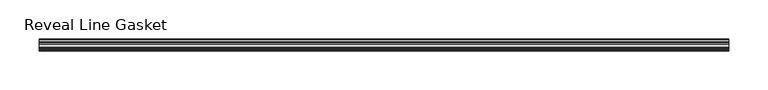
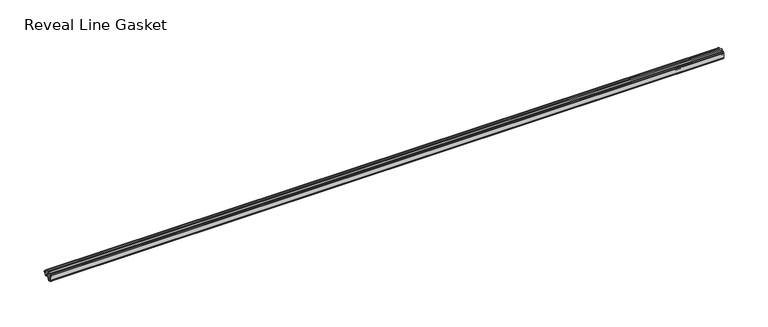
"""IFC4 building model written with IfcOpenShell, lengths in millimetres: proxy geometry, Accessories-Teknion-FHGR-AI_Healthcare-Reveal_Line_Gasket(Horizontal)-R2022 : Reveal Line Gasket."""

from ifc_helpers import new_model, si_unit, point, frame, frame_2d, origin, place, context, project, spatial, polyline, circle_curve, trimmed, segment, composite_curve, outline, extrude, source, transform, mapped, element, save


def reveal_line_gasket_c02b8135(model_context):
    return source(origin(), model_context, "Body", "SweptSolid", [
        extrude(outline(composite_curve([segment(polyline([(-7.6326998, 1603.2), (-7.4091917, 1604.1554927), (-6.8813059, 1605.0884684)]), True, "CONTINUOUS"), segment(trimmed(circle_curve(frame_2d((-6.5243141, 1604.8864793)), 0.4101739), [point((-6.8813059, 1605.0884684))], [point((-6.1246704, 1604.7941347))], False, "CARTESIAN"), True, "CONTINUOUS"), segment(polyline([(-6.1246704, 1604.7941347), (-6.3626997, 1603.0979086), (-6.3626997, 1601.0654527)]), True, "CONTINUOUS"), segment(trimmed(circle_curve(frame_2d((-5.6959605, 1601.4819258)), 0.786124), [point((-6.3626997, 1601.0654527))], [point((-5.0926996, 1600.977875))], True, "CARTESIAN"), True, "CONTINUOUS"), segment(polyline([(-5.0926996, 1600.977875), (-0.7492996, 1600.977875), (-3.7293824, 1606.1395295)]), True, "CONTINUOUS"), segment(trimmed(circle_curve(frame_2d((-3.3132479, 1606.2049761)), 0.4212495), [point((-3.7293824, 1606.1395295))], [point((-3.0485022, 1606.5326358))], False, "CARTESIAN"), True, "CONTINUOUS"), segment(polyline([(-3.0485022, 1606.5326358), (0.5742594, 1600.977875), (4.8262978, 1600.977875), (3.1660374, 1603.8535297)]), True, "CONTINUOUS"), segment(trimmed(circle_curve(frame_2d((3.5978728, 1603.9118855)), 0.4357605), [point((3.1660374, 1603.8535297))], [point((3.864328, 1604.2566881))], False, "CARTESIAN"), True, "CONTINUOUS"), segment(polyline([(3.864328, 1604.2566881), (6.1944059, 1600.977875), (7.6326998, 1600.977875), (7.6326998, 1599.422125), (6.1944059, 1599.422125), (3.864328, 1596.1433119)]), True, "CONTINUOUS"), segment(trimmed(circle_curve(frame_2d((3.5978728, 1596.4881145)), 0.4357605), [point((3.864328, 1596.1433119))], [point((3.1660374, 1596.5464703))], False, "CARTESIAN"), True, "CONTINUOUS"), segment(polyline([(3.1660374, 1596.5464703), (4.8262978, 1599.422125), (0.5742594, 1599.422125), (-3.0485022, 1593.8673642)]), True, "CONTINUOUS"), segment(trimmed(circle_curve(frame_2d((-3.3132479, 1594.1950239)), 0.4212495), [point((-3.0485022, 1593.8673642))], [point((-3.7293824, 1594.2604705))], False, "CARTESIAN"), True, "CONTINUOUS"), segment(polyline([(-3.7293824, 1594.2604705), (-0.7492996, 1599.422125), (-5.0926996, 1599.422125)]), True, "CONTINUOUS"), segment(trimmed(circle_curve(frame_2d((-5.6959605, 1598.9180742)), 0.786124), [point((-5.0926996, 1599.422125))], [point((-6.3626997, 1599.3345473))], True, "CARTESIAN"), True, "CONTINUOUS"), segment(polyline([(-6.3626997, 1599.3345473), (-6.3626997, 1597.3020914), (-6.1246704, 1595.6058653)]), True, "CONTINUOUS"), segment(trimmed(circle_curve(frame_2d((-6.5243141, 1595.5135207)), 0.4101739), [point((-6.1246704, 1595.6058653))], [point((-6.8813059, 1595.3115316))], False, "CARTESIAN"), True, "CONTINUOUS"), segment(polyline([(-6.8813059, 1595.3115316), (-7.4091917, 1596.2445073), (-7.6326998, 1597.2), (-7.6326998, 1603.2)]), True, "CONTINUOUS")], self_intersect=False)), frame((-439.5049898, 0.0, 0.0), z_axis=(1.0, 0.0, 0.0), x_axis=(0.0, 1.0, 0.0)), (0.0, 0.0, 1.0), 879.0099795),
    ])


if __name__ == "__main__":
    model = new_model("IFC4")
    model_context = context("Model", 3, world=origin())
    ifc_project = project(units=[si_unit("LENGTHUNIT", "METRE", prefix="MILLI")], contexts=[model_context])
    site = spatial("IfcSite", under=ifc_project)
    building = spatial("IfcBuilding", under=site)
    placement = place(None, origin())
    reveal_line_gasket_shape = reveal_line_gasket_c02b8135(model_context)
    element("IfcBuildingElementProxy", 1, Name="Accessories-Teknion-FHGR-AI_Healthcare-Reveal_Line_Gasket(Horizontal)-R2022 : Reveal Line Gasket", ObjectType="Accessories-Teknion-FHGR-AI_Healthcare-Reveal_Line_Gasket(Horizontal)-R2022 : Reveal Line Gasket", at=placement, inside=building, context=model_context, shape_type="MappedRepresentation", body=[
        mapped(reveal_line_gasket_shape, transform((0.0, 0.0, 0.0), x_axis=(1.0, 0.0, 0.0), y_axis=(0.0, 1.0, 0.0), z_axis=(0.0, 0.0, 1.0))),
    ])
    save(model, "model.ifc")
